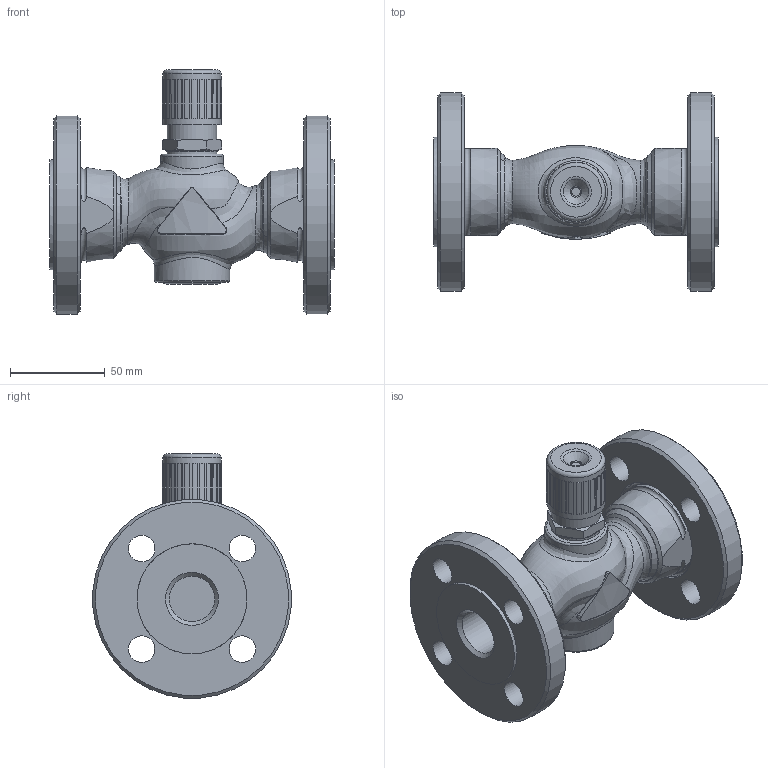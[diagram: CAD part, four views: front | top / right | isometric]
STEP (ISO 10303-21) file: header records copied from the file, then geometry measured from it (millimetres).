
FILE_DESCRIPTION(/* description */ (''),/* implementation_level */ '2;1');
FILE_NAME(/* name */ 'rv111r_dn20_2_F.stp',/* time_stamp */ '2012-02-21T11:41:40+01:00',/* author */ ('KLIMES'),/* organization */ ('LDM'),/* preprocessor_version */ 'ST-DEVELOPER v11',/* originating_system */ 'SIEMENS PLM Software NX 7.0',/* authorisation */ '');
FILE_SCHEMA (('CONFIG_CONTROL_DESIGN'));
Length unit declared in the file: millimetre
Products named in the file (1): klim56BEqbkc
Bounding box: 150 x 104.6 x 128.7 mm (x, y, z)
Volume: 452205 mm3; surface area: 87342.6 mm2
Topology: 4 solids, 4 shells, 292 faces, 676 edges, 433 vertices
Faces by surface type: plane 139, cone 67, cylinder 41, bspline 25, torus 20
Full cylindrical faces by diameter (mm): 8 x1, 14 x8, 23.4 x1, 24 x2, 24.117 x1, 26 x1, 26.5 x1, 30.8 x1, 32.5 x1, 33 x1, 38.952 x2, 40 x1, 41.91 x2, 42 x2, 58 x2, 105 x2
Entity records: 13669 total; most frequent: CARTESIAN_POINT 7439, DIRECTION 1262, ORIENTED_EDGE 1156, EDGE_CURVE 578, AXIS2_PLACEMENT_3D 519, EDGE_LOOP 424, VERTEX_POINT 406, ADVANCED_FACE 292
